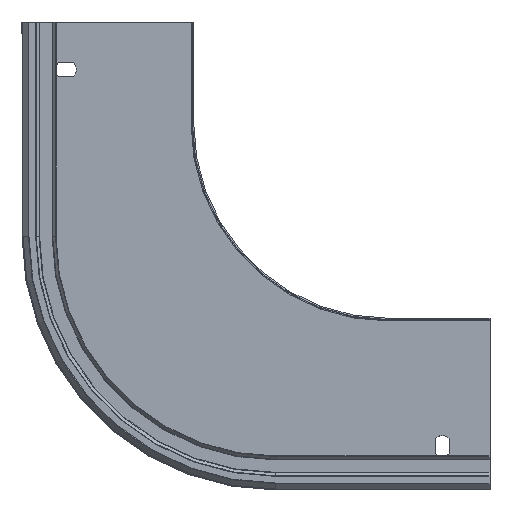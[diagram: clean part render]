
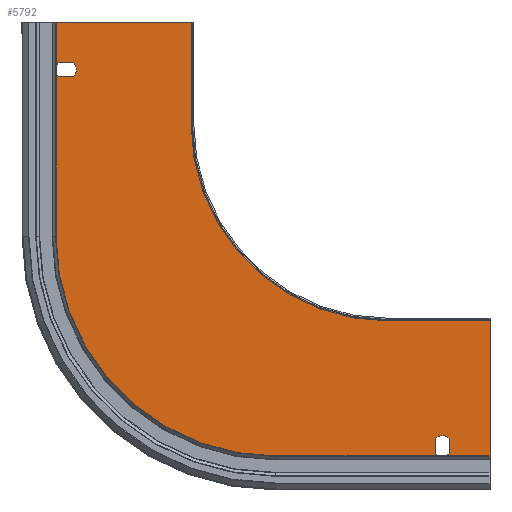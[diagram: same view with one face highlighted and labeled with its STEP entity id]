
A CAD part, left-side view. The second image highlights one B-rep face of the part: STEP entity #5792.
In plain terms, the highlighted planar face has unit normal (-1, 0, 0).
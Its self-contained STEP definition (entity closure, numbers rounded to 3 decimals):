
#10 = CIRCLE ( 'NONE', #298, 129.531 ) ;
#16 = VECTOR ( 'NONE', #3869, 1000. ) ;
#259 = DIRECTION ( 'NONE',  ( -1., 0., 0. ) ) ;
#298 = AXIS2_PLACEMENT_3D ( 'NONE', #4350, #259, #4405 ) ;
#317 = CARTESIAN_POINT ( 'NONE',  ( 0., 253.672, -231.2 ) ) ;
#326 = LINE ( 'NONE', #3887, #4100 ) ;
#412 = PLANE ( 'NONE',  #5372 ) ;
#439 = CARTESIAN_POINT ( 'NONE',  ( 0., 0., -231.2 ) ) ;
#441 = ORIENTED_EDGE ( 'NONE', *, *, #4192, .T. ) ;
#496 = VERTEX_POINT ( 'NONE', #569 ) ;
#542 = DIRECTION ( 'NONE',  ( 0., 1., 0. ) ) ;
#569 = CARTESIAN_POINT ( 'NONE',  ( 0., 126., 0.331 ) ) ;
#592 = DIRECTION ( 'NONE',  ( 0., -1., 0. ) ) ;
#609 = CARTESIAN_POINT ( 'NONE',  ( 0., 28., -6. ) ) ;
#625 = EDGE_CURVE ( 'NONE', #665, #3728, #326, .T. ) ;
#640 = DIRECTION ( 'NONE',  ( 1., 0., 0. ) ) ;
#665 = VERTEX_POINT ( 'NONE', #5310 ) ;
#669 = LINE ( 'NONE', #2509, #16 ) ;
#735 = DIRECTION ( 'NONE',  ( 0., 0., -1. ) ) ;
#816 = ORIENTED_EDGE ( 'NONE', *, *, #3655, .T. ) ;
#954 = DIRECTION ( 'NONE',  ( 0., 0., -1. ) ) ;
#1016 = DIRECTION ( 'NONE',  ( 0., 0., 1. ) ) ;
#1027 = ORIENTED_EDGE ( 'NONE', *, *, #2382, .T. ) ;
#1071 = CARTESIAN_POINT ( 'NONE',  ( 0., 32., 0. ) ) ;
#1100 = EDGE_CURVE ( 'NONE', #5264, #4812, #4259, .T. ) ;
#1134 = EDGE_CURVE ( 'NONE', #3747, #3416, #2032, .T. ) ;
#1138 = CARTESIAN_POINT ( 'NONE',  ( 0., 253.672, -223.2 ) ) ;
#1196 = CARTESIAN_POINT ( 'NONE',  ( 0., 0., -80. ) ) ;
#1283 = DIRECTION ( 'NONE',  ( 0., 0., -1. ) ) ;
#1342 = VERTEX_POINT ( 'NONE', #4789 ) ;
#1345 = EDGE_CURVE ( 'NONE', #4941, #3801, #2207, .T. ) ;
#1398 = DIRECTION ( 'NONE',  ( 0., 0., -1. ) ) ;
#1425 = CARTESIAN_POINT ( 'NONE',  ( 0., 24., -10.472 ) ) ;
#1451 = ORIENTED_EDGE ( 'NONE', *, *, #625, .F. ) ;
#1540 = AXIS2_PLACEMENT_3D ( 'NONE', #5698, #4835, #735 ) ;
#1555 = DIRECTION ( 'NONE',  ( 0., 1., 0. ) ) ;
#1557 = AXIS2_PLACEMENT_3D ( 'NONE', #5766, #1682, #954 ) ;
#1559 = LINE ( 'NONE', #2016, #2902 ) ;
#1600 = FACE_BOUND ( 'NONE', #4659, .T. ) ;
#1682 = DIRECTION ( 'NONE',  ( 1., 0., 0. ) ) ;
#1685 = VERTEX_POINT ( 'NONE', #1898 ) ;
#1768 = FACE_OUTER_BOUND ( 'NONE', #4645, .T. ) ;
#1848 = CIRCLE ( 'NONE', #5072, 6. ) ;
#1850 = LINE ( 'NONE', #2776, #3386 ) ;
#1898 = CARTESIAN_POINT ( 'NONE',  ( 0., 255.531, -129.2 ) ) ;
#1909 = ORIENTED_EDGE ( 'NONE', *, *, #1100, .F. ) ;
#1912 = CARTESIAN_POINT ( 'NONE',  ( 0., 175.2, -195.2 ) ) ;
#2001 = ORIENTED_EDGE ( 'NONE', *, *, #5667, .T. ) ;
#2012 = CARTESIAN_POINT ( 'NONE',  ( 0., 174.2, -255.2 ) ) ;
#2016 = CARTESIAN_POINT ( 'NONE',  ( 0., 0., -223.2 ) ) ;
#2032 = CIRCLE ( 'NONE', #1540, 6. ) ;
#2180 = ORIENTED_EDGE ( 'NONE', *, *, #5210, .F. ) ;
#2207 = CIRCLE ( 'NONE', #3635, 6. ) ;
#2211 = DIRECTION ( 'NONE',  ( 1., 0., 0. ) ) ;
#2236 = VECTOR ( 'NONE', #3234, 1000. ) ;
#2246 = CARTESIAN_POINT ( 'NONE',  ( 0., 0., 0. ) ) ;
#2267 = DIRECTION ( 'NONE',  ( 1., 0., 0. ) ) ;
#2284 = CARTESIAN_POINT ( 'NONE',  ( 0., 32., -10.472 ) ) ;
#2382 = EDGE_CURVE ( 'NONE', #496, #1685, #10, .T. ) ;
#2431 = CIRCLE ( 'NONE', #5451, 115.2 ) ;
#2509 = CARTESIAN_POINT ( 'NONE',  ( 0., 126., 0.331 ) ) ;
#2542 = CARTESIAN_POINT ( 'NONE',  ( 0., 244.728, -231.2 ) ) ;
#2610 = CIRCLE ( 'NONE', #1557, 6. ) ;
#2656 = VERTEX_POINT ( 'NONE', #1425 ) ;
#2694 = CARTESIAN_POINT ( 'NONE',  ( 0., 60., -195.2 ) ) ;
#2769 = ORIENTED_EDGE ( 'NONE', *, *, #2790, .F. ) ;
#2776 = CARTESIAN_POINT ( 'NONE',  ( 0., 175.2, -195.2 ) ) ;
#2790 = EDGE_CURVE ( 'NONE', #496, #665, #669, .T. ) ;
#2902 = VECTOR ( 'NONE', #592, 1000. ) ;
#2903 = ORIENTED_EDGE ( 'NONE', *, *, #4514, .T. ) ;
#2993 = AXIS2_PLACEMENT_3D ( 'NONE', #5900, #2267, #1398 ) ;
#3000 = VECTOR ( 'NONE', #1283, 1000. ) ;
#3027 = ORIENTED_EDGE ( 'NONE', *, *, #3889, .F. ) ;
#3058 = ORIENTED_EDGE ( 'NONE', *, *, #3593, .T. ) ;
#3169 = DIRECTION ( 'NONE',  ( 0., 0., 1. ) ) ;
#3234 = DIRECTION ( 'NONE',  ( 0., 1., 0. ) ) ;
#3260 = VECTOR ( 'NONE', #1555, 1000. ) ;
#3271 = CARTESIAN_POINT ( 'NONE',  ( 0., 244.728, -223.2 ) ) ;
#3386 = VECTOR ( 'NONE', #5059, 1000. ) ;
#3416 = VERTEX_POINT ( 'NONE', #1138 ) ;
#3420 = DIRECTION ( 'NONE',  ( 0., 0., -1. ) ) ;
#3423 = ORIENTED_EDGE ( 'NONE', *, *, #5009, .T. ) ;
#3580 = CARTESIAN_POINT ( 'NONE',  ( 0., 60., -80. ) ) ;
#3593 = EDGE_CURVE ( 'NONE', #3416, #3642, #1559, .T. ) ;
#3635 = AXIS2_PLACEMENT_3D ( 'NONE', #609, #640, #5688 ) ;
#3642 = VERTEX_POINT ( 'NONE', #3271 ) ;
#3655 = EDGE_CURVE ( 'NONE', #5582, #4941, #4236, .T. ) ;
#3728 = VERTEX_POINT ( 'NONE', #1196 ) ;
#3741 = LINE ( 'NONE', #4655, #4228 ) ;
#3747 = VERTEX_POINT ( 'NONE', #317 ) ;
#3799 = DIRECTION ( 'NONE',  ( 0., 0., -1. ) ) ;
#3801 = VERTEX_POINT ( 'NONE', #4891 ) ;
#3829 = EDGE_LOOP ( 'NONE', ( #816, #4468, #2001, #2903, #441 ) ) ;
#3869 = DIRECTION ( 'NONE',  ( 0., -1., 0. ) ) ;
#3887 = CARTESIAN_POINT ( 'NONE',  ( 0., 0., 0. ) ) ;
#3889 = EDGE_CURVE ( 'NONE', #4915, #5876, #2431, .T. ) ;
#3896 = EDGE_CURVE ( 'NONE', #4048, #3747, #4023, .T. ) ;
#3940 = VECTOR ( 'NONE', #542, 1000. ) ;
#3956 = CARTESIAN_POINT ( 'NONE',  ( 0., 28., -6. ) ) ;
#3976 = EDGE_CURVE ( 'NONE', #1685, #4812, #5365, .T. ) ;
#3998 = ORIENTED_EDGE ( 'NONE', *, *, #5140, .F. ) ;
#4011 = ORIENTED_EDGE ( 'NONE', *, *, #3896, .T. ) ;
#4023 = LINE ( 'NONE', #439, #2236 ) ;
#4048 = VERTEX_POINT ( 'NONE', #2542 ) ;
#4100 = VECTOR ( 'NONE', #5341, 1000. ) ;
#4192 = EDGE_CURVE ( 'NONE', #1342, #5582, #1848, .T. ) ;
#4228 = VECTOR ( 'NONE', #3799, 1000. ) ;
#4236 = LINE ( 'NONE', #1071, #4499 ) ;
#4259 = LINE ( 'NONE', #2012, #3260 ) ;
#4350 = CARTESIAN_POINT ( 'NONE',  ( 0., 126., -129.2 ) ) ;
#4367 = DIRECTION ( 'NONE',  ( 1., 0., 0. ) ) ;
#4405 = DIRECTION ( 'NONE',  ( 0., 0., 1. ) ) ;
#4429 = CARTESIAN_POINT ( 'NONE',  ( 0., 32., -1.528 ) ) ;
#4460 = CARTESIAN_POINT ( 'NONE',  ( 0., 255.531, -129.2 ) ) ;
#4468 = ORIENTED_EDGE ( 'NONE', *, *, #1345, .T. ) ;
#4499 = VECTOR ( 'NONE', #1016, 1000. ) ;
#4514 = EDGE_CURVE ( 'NONE', #2656, #1342, #2610, .T. ) ;
#4645 = EDGE_LOOP ( 'NONE', ( #1451, #2769, #1027, #4908, #1909, #3998, #3027, #2180 ) ) ;
#4655 = CARTESIAN_POINT ( 'NONE',  ( 0., 24., 0. ) ) ;
#4659 = EDGE_LOOP ( 'NONE', ( #4011, #5041, #3058, #3423 ) ) ;
#4667 = CARTESIAN_POINT ( 'NONE',  ( 0., 0., -80. ) ) ;
#4789 = CARTESIAN_POINT ( 'NONE',  ( 0., 28., -12. ) ) ;
#4812 = VERTEX_POINT ( 'NONE', #5237 ) ;
#4835 = DIRECTION ( 'NONE',  ( 1., 0., 0. ) ) ;
#4850 = DIRECTION ( 'NONE',  ( 0., 0., -1. ) ) ;
#4891 = CARTESIAN_POINT ( 'NONE',  ( 0., 24., -1.528 ) ) ;
#4908 = ORIENTED_EDGE ( 'NONE', *, *, #3976, .T. ) ;
#4915 = VERTEX_POINT ( 'NONE', #3580 ) ;
#4941 = VERTEX_POINT ( 'NONE', #4429 ) ;
#4943 = FACE_BOUND ( 'NONE', #3829, .T. ) ;
#5009 = EDGE_CURVE ( 'NONE', #3642, #4048, #5555, .T. ) ;
#5041 = ORIENTED_EDGE ( 'NONE', *, *, #1134, .T. ) ;
#5059 = DIRECTION ( 'NONE',  ( 0., 0., -1. ) ) ;
#5072 = AXIS2_PLACEMENT_3D ( 'NONE', #3956, #4367, #4850 ) ;
#5117 = LINE ( 'NONE', #4667, #3940 ) ;
#5140 = EDGE_CURVE ( 'NONE', #5876, #5264, #1850, .T. ) ;
#5142 = CARTESIAN_POINT ( 'NONE',  ( 0., 175.2, -255.2 ) ) ;
#5210 = EDGE_CURVE ( 'NONE', #3728, #4915, #5117, .T. ) ;
#5237 = CARTESIAN_POINT ( 'NONE',  ( 0., 255.531, -255.2 ) ) ;
#5264 = VERTEX_POINT ( 'NONE', #5142 ) ;
#5310 = CARTESIAN_POINT ( 'NONE',  ( 0., 0., 0.331 ) ) ;
#5341 = DIRECTION ( 'NONE',  ( 0., 0., -1. ) ) ;
#5365 = LINE ( 'NONE', #4460, #3000 ) ;
#5372 = AXIS2_PLACEMENT_3D ( 'NONE', #2246, #2211, #3420 ) ;
#5451 = AXIS2_PLACEMENT_3D ( 'NONE', #2694, #5853, #3169 ) ;
#5555 = CIRCLE ( 'NONE', #2993, 6. ) ;
#5582 = VERTEX_POINT ( 'NONE', #2284 ) ;
#5667 = EDGE_CURVE ( 'NONE', #3801, #2656, #3741, .T. ) ;
#5688 = DIRECTION ( 'NONE',  ( 0., 0., -1. ) ) ;
#5698 = CARTESIAN_POINT ( 'NONE',  ( 0., 249.2, -227.2 ) ) ;
#5766 = CARTESIAN_POINT ( 'NONE',  ( 0., 28., -6. ) ) ;
#5792 = ADVANCED_FACE ( 'NONE', ( #4943, #1600, #1768 ), #412, .F. ) ;
#5853 = DIRECTION ( 'NONE',  ( -1., 0., 0. ) ) ;
#5876 = VERTEX_POINT ( 'NONE', #1912 ) ;
#5900 = CARTESIAN_POINT ( 'NONE',  ( 0., 249.2, -227.2 ) ) ;
